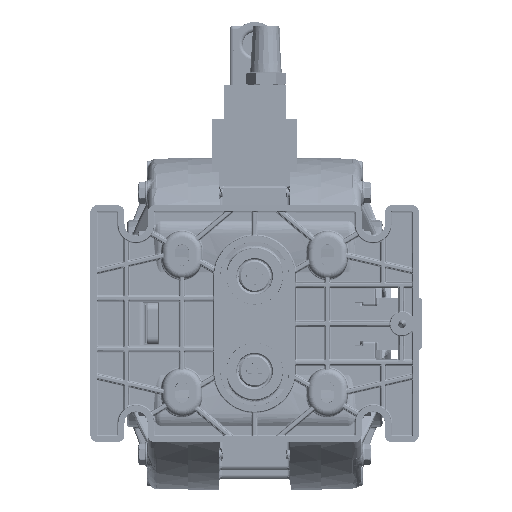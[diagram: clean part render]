
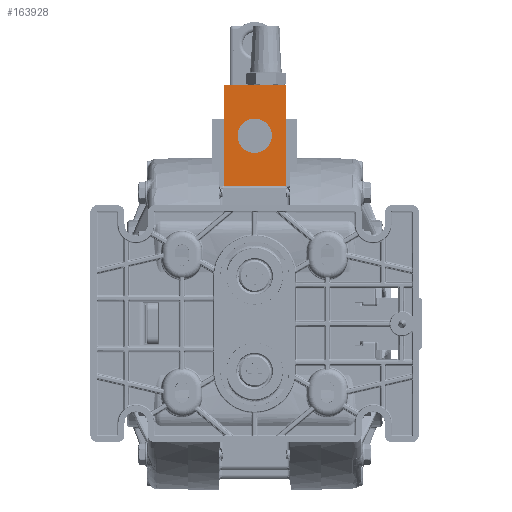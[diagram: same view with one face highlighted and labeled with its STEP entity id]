
A CAD part, front view. The second image highlights one B-rep face of the part: STEP entity #163928.
In plain terms, the highlighted planar face has unit normal (0, -1, 0).
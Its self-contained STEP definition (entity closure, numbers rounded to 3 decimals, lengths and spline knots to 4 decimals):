
#5959 = EDGE_CURVE ( 'NONE', #371841, #91408, #367836, .T. ) ;
#6526 = LINE ( 'NONE', #197803, #453027 ) ;
#7640 = EDGE_CURVE ( 'NONE', #99257, #83267, #422284, .T. ) ;
#39855 = ORIENTED_EDGE ( 'NONE', *, *, #5959, .F. ) ;
#53816 = DIRECTION ( 'NONE',  ( 0., 0., 1. ) ) ;
#72270 = CARTESIAN_POINT ( 'NONE',  ( 0., -1.27, 2.794 ) ) ;
#83267 = VERTEX_POINT ( 'NONE', #290268 ) ;
#91408 = VERTEX_POINT ( 'NONE', #72270 ) ;
#94426 = ORIENTED_EDGE ( 'NONE', *, *, #151137, .F. ) ;
#99257 = VERTEX_POINT ( 'NONE', #158174 ) ;
#133737 = DIRECTION ( 'NONE',  ( 0., 0., 1. ) ) ;
#134712 = VERTEX_POINT ( 'NONE', #194604 ) ;
#136820 = CARTESIAN_POINT ( 'NONE',  ( 0.505, -1.27, 2.25 ) ) ;
#140084 = DIRECTION ( 'NONE',  ( 0., -1., 0. ) ) ;
#151137 = EDGE_CURVE ( 'NONE', #99257, #406688, #6526, .T. ) ;
#151852 = FACE_OUTER_BOUND ( 'NONE', #424073, .T. ) ;
#157613 = VECTOR ( 'NONE', #53816, 39.3701 ) ;
#158004 = CARTESIAN_POINT ( 'NONE',  ( 0.505, -1.27, 2.25 ) ) ;
#158174 = CARTESIAN_POINT ( 'NONE',  ( 0.505, -1.27, 2.25 ) ) ;
#163928 = ADVANCED_FACE ( 'NONE', ( #245932, #151852 ), #613913, .T. ) ;
#177452 = EDGE_CURVE ( 'NONE', #83267, #134712, #209925, .T. ) ;
#194604 = CARTESIAN_POINT ( 'NONE',  ( -0.505, -1.27, 3.9 ) ) ;
#197803 = CARTESIAN_POINT ( 'NONE',  ( 0.505, -1.27, 2.25 ) ) ;
#209925 = LINE ( 'NONE', #448284, #580968 ) ;
#228939 = ORIENTED_EDGE ( 'NONE', *, *, #424598, .F. ) ;
#245932 = FACE_BOUND ( 'NONE', #572083, .T. ) ;
#248178 = LINE ( 'NONE', #439531, #157613 ) ;
#290268 = CARTESIAN_POINT ( 'NONE',  ( 0.505, -1.27, 3.9 ) ) ;
#294988 = DIRECTION ( 'NONE',  ( -1., 0., 0. ) ) ;
#310185 = DIRECTION ( 'NONE',  ( -1., 0., 0. ) ) ;
#328910 = VECTOR ( 'NONE', #133737, 39.3701 ) ;
#329394 = CARTESIAN_POINT ( 'NONE',  ( 0., -1.27, 3.075 ) ) ;
#367836 = CIRCLE ( 'NONE', #548290, 0.281 ) ;
#370273 = DIRECTION ( 'NONE',  ( 0., 0., 1. ) ) ;
#371841 = VERTEX_POINT ( 'NONE', #608440 ) ;
#389897 = ORIENTED_EDGE ( 'NONE', *, *, #7640, .T. ) ;
#406688 = VERTEX_POINT ( 'NONE', #450297 ) ;
#412279 = EDGE_CURVE ( 'NONE', #406688, #134712, #248178, .T. ) ;
#422284 = LINE ( 'NONE', #136820, #328910 ) ;
#424073 = EDGE_LOOP ( 'NONE', ( #435835, #494207, #94426, #389897 ) ) ;
#424598 = EDGE_CURVE ( 'NONE', #91408, #371841, #560362, .T. ) ;
#435835 = ORIENTED_EDGE ( 'NONE', *, *, #177452, .T. ) ;
#437272 = DIRECTION ( 'NONE',  ( 0., -1., 0. ) ) ;
#439531 = CARTESIAN_POINT ( 'NONE',  ( -0.505, -1.27, 2.25 ) ) ;
#448284 = CARTESIAN_POINT ( 'NONE',  ( 0.505, -1.27, 3.9 ) ) ;
#450297 = CARTESIAN_POINT ( 'NONE',  ( -0.505, -1.27, 2.25 ) ) ;
#453027 = VECTOR ( 'NONE', #294988, 39.3701 ) ;
#460134 = AXIS2_PLACEMENT_3D ( 'NONE', #610653, #140084, #616809 ) ;
#470581 = DIRECTION ( 'NONE',  ( 0., -1., 0. ) ) ;
#494207 = ORIENTED_EDGE ( 'NONE', *, *, #412279, .F. ) ;
#515992 = AXIS2_PLACEMENT_3D ( 'NONE', #158004, #437272, #569928 ) ;
#548290 = AXIS2_PLACEMENT_3D ( 'NONE', #329394, #470581, #370273 ) ;
#560362 = CIRCLE ( 'NONE', #460134, 0.281 ) ;
#569928 = DIRECTION ( 'NONE',  ( 0., 0., -1. ) ) ;
#572083 = EDGE_LOOP ( 'NONE', ( #39855, #228939 ) ) ;
#580968 = VECTOR ( 'NONE', #310185, 39.3701 ) ;
#608440 = CARTESIAN_POINT ( 'NONE',  ( 0., -1.27, 3.356 ) ) ;
#610653 = CARTESIAN_POINT ( 'NONE',  ( 0., -1.27, 3.075 ) ) ;
#613913 = PLANE ( 'NONE',  #515992 ) ;
#616809 = DIRECTION ( 'NONE',  ( 0., 0., -1. ) ) ;
